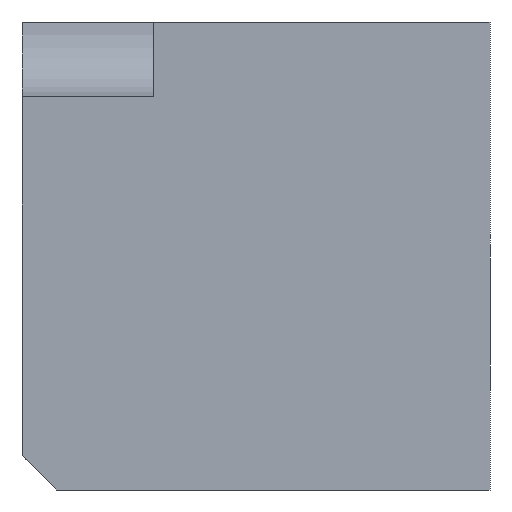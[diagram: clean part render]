
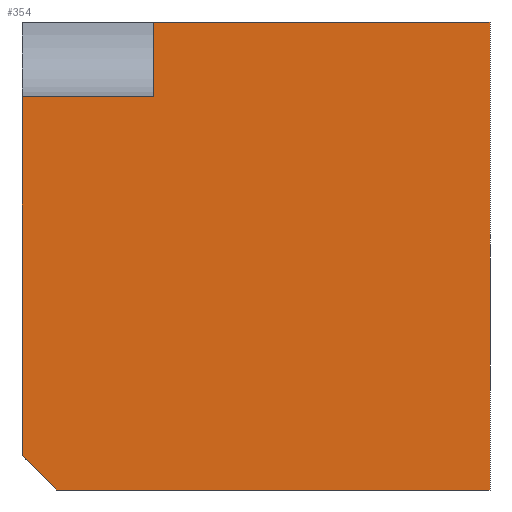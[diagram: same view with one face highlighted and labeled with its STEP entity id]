
A CAD part, front view. The second image highlights one B-rep face of the part: STEP entity #354.
In plain terms, the highlighted planar face has unit normal (0, -1, 0).
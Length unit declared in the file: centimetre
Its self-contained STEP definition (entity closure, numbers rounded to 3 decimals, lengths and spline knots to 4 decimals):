
#25 = CARTESIAN_POINT ( 'NONE',  ( 280.5844, 0., 1000. ) ) ;
#50 = DIRECTION ( 'NONE',  ( 0., 0., -1. ) ) ;
#57 = CARTESIAN_POINT ( 'NONE',  ( 74.0451, 0., 0. ) ) ;
#64 = DIRECTION ( 'NONE',  ( 0., 1., 0. ) ) ;
#113 = EDGE_CURVE ( 'NONE', #1495, #1037, #763, .T. ) ;
#279 = AXIS2_PLACEMENT_3D ( 'NONE', #785, #64, #2214 ) ;
#354 = ADVANCED_FACE ( 'NONE', ( #625 ), #976, .F. ) ;
#385 = DIRECTION ( 'NONE',  ( 1., 0., 0. ) ) ;
#404 = CARTESIAN_POINT ( 'NONE',  ( 280.5844, 0., 1000. ) ) ;
#405 = VECTOR ( 'NONE', #2089, 100. ) ;
#460 = EDGE_LOOP ( 'NONE', ( #2261, #1734, #526, #730, #859, #2216, #1957 ) ) ;
#524 = CARTESIAN_POINT ( 'NONE',  ( 0., 0., 840.0632 ) ) ;
#526 = ORIENTED_EDGE ( 'NONE', *, *, #2175, .T. ) ;
#542 = LINE ( 'NONE', #2312, #853 ) ;
#600 = CARTESIAN_POINT ( 'NONE',  ( 280.5844, 0., 840.0632 ) ) ;
#625 = FACE_OUTER_BOUND ( 'NONE', #460, .T. ) ;
#730 = ORIENTED_EDGE ( 'NONE', *, *, #1006, .T. ) ;
#746 = VECTOR ( 'NONE', #50, 100. ) ;
#763 = LINE ( 'NONE', #404, #2221 ) ;
#785 = CARTESIAN_POINT ( 'NONE',  ( 0., 0., 1000. ) ) ;
#845 = EDGE_CURVE ( 'NONE', #1037, #1556, #1574, .T. ) ;
#853 = VECTOR ( 'NONE', #1417, 100. ) ;
#859 = ORIENTED_EDGE ( 'NONE', *, *, #1140, .T. ) ;
#899 = LINE ( 'NONE', #1456, #1470 ) ;
#924 = CARTESIAN_POINT ( 'NONE',  ( 280.5844, 0., 840.0632 ) ) ;
#976 = PLANE ( 'NONE',  #279 ) ;
#982 = CARTESIAN_POINT ( 'NONE',  ( 1000., 0., 1000. ) ) ;
#1006 = EDGE_CURVE ( 'NONE', #2031, #1566, #542, .T. ) ;
#1037 = VERTEX_POINT ( 'NONE', #25 ) ;
#1051 = EDGE_CURVE ( 'NONE', #1495, #1215, #1472, .T. ) ;
#1140 = EDGE_CURVE ( 'NONE', #1566, #2103, #2167, .T. ) ;
#1171 = CARTESIAN_POINT ( 'NONE',  ( 1000., 0., 0. ) ) ;
#1215 = VERTEX_POINT ( 'NONE', #524 ) ;
#1295 = DIRECTION ( 'NONE',  ( 0., 0., 1. ) ) ;
#1310 = EDGE_CURVE ( 'NONE', #1556, #2103, #2077, .T. ) ;
#1417 = DIRECTION ( 'NONE',  ( 0.707, 0., -0.707 ) ) ;
#1456 = CARTESIAN_POINT ( 'NONE',  ( 0., 0., 1000. ) ) ;
#1470 = VECTOR ( 'NONE', #1667, 100. ) ;
#1472 = LINE ( 'NONE', #924, #1735 ) ;
#1495 = VERTEX_POINT ( 'NONE', #600 ) ;
#1556 = VERTEX_POINT ( 'NONE', #1676 ) ;
#1563 = CARTESIAN_POINT ( 'NONE',  ( 0., 0., 1000. ) ) ;
#1566 = VERTEX_POINT ( 'NONE', #57 ) ;
#1574 = LINE ( 'NONE', #1563, #405 ) ;
#1652 = DIRECTION ( 'NONE',  ( -1., 0., 0. ) ) ;
#1667 = DIRECTION ( 'NONE',  ( 0., 0., -1. ) ) ;
#1676 = CARTESIAN_POINT ( 'NONE',  ( 1000., 0., 1000. ) ) ;
#1724 = CARTESIAN_POINT ( 'NONE',  ( 0., 0., 74.0451 ) ) ;
#1734 = ORIENTED_EDGE ( 'NONE', *, *, #1051, .T. ) ;
#1735 = VECTOR ( 'NONE', #1652, 100. ) ;
#1830 = CARTESIAN_POINT ( 'NONE',  ( 0., 0., 0. ) ) ;
#1957 = ORIENTED_EDGE ( 'NONE', *, *, #845, .F. ) ;
#2031 = VERTEX_POINT ( 'NONE', #1724 ) ;
#2077 = LINE ( 'NONE', #982, #746 ) ;
#2089 = DIRECTION ( 'NONE',  ( 1., 0., 0. ) ) ;
#2103 = VERTEX_POINT ( 'NONE', #1171 ) ;
#2109 = VECTOR ( 'NONE', #385, 100. ) ;
#2167 = LINE ( 'NONE', #1830, #2109 ) ;
#2175 = EDGE_CURVE ( 'NONE', #1215, #2031, #899, .T. ) ;
#2214 = DIRECTION ( 'NONE',  ( 0., 0., 1. ) ) ;
#2216 = ORIENTED_EDGE ( 'NONE', *, *, #1310, .F. ) ;
#2221 = VECTOR ( 'NONE', #1295, 100. ) ;
#2261 = ORIENTED_EDGE ( 'NONE', *, *, #113, .F. ) ;
#2312 = CARTESIAN_POINT ( 'NONE',  ( 0., 0., 74.0451 ) ) ;
